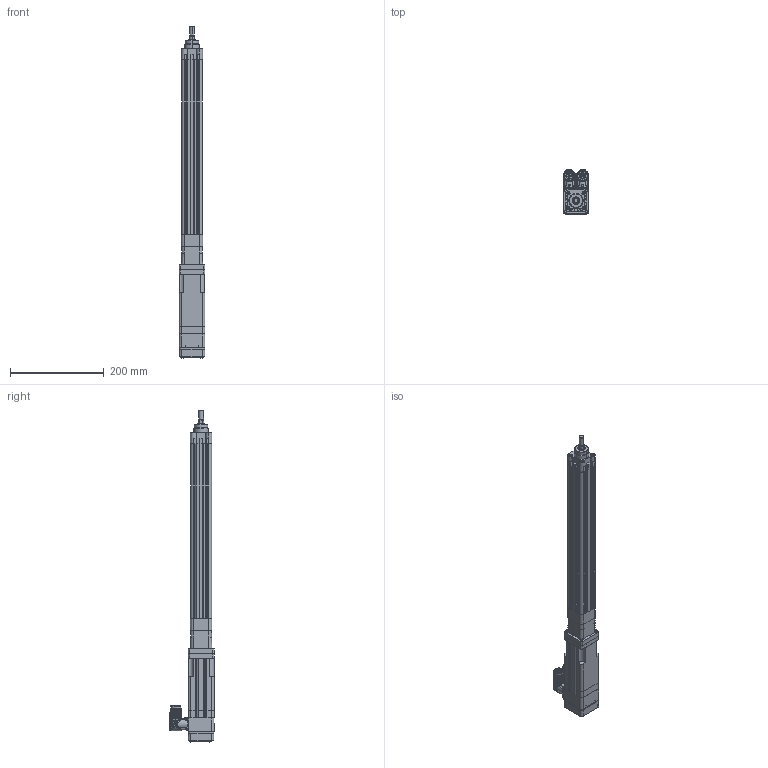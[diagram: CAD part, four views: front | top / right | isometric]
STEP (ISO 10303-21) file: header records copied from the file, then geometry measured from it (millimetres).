
FILE_DESCRIPTION((''),'2;1');
FILE_NAME('MPAR-X1300E-V4A_ASM','2009-04-15T',('dperuma'),('Rockwell Automation'),'PRO/ENGINEER BY PARAMETRIC TECHNOLOGY CORPORATION, 2004490','PRO/ENGINEER BY PARAMETRIC TECHNOLOGY CORPORATION, 2004490','');
FILE_SCHEMA(('CONFIG_CONTROL_DESIGN'));
Length unit declared in the file: millimetre
Products named in the file (46): PRT0003-543121; PRT0004-543121; 627359_627363_ASM; 627462; 627457; 627453; CA33127-020-0_1; EPF-CA30591-0_1; IMPORT-1113_1; IMPORT-1114_1; IMPORT-1115_1; EPF-CA28084-0_ASM_1_ASM; MPG-FASTNER-1116_1; MPG-FASTNER-1117_1; MPG-FASTNER-1118_1; MPG-FASTNER-1119_1; EPF-CA28083-0_ASM_1_ASM; DIN912-2-5-006-0_1; MPG-FASTNER-1122_1; MPG-FASTNER-1123_1; EPF-C08363-0_ASM_1_ASM; EPF-C08459-001-0_1; G4X2L20-0_ASM_1_ASM; B1530-BRK-HSG_1; EPF-B47940-001A_1; IMPORT-1106_1; MANIFOLD_SOLID_BREP_45981; MANIFOLD_SOLID_BREP_46020; MANIFOLD_SOLID_BREP_46059; MANIFOLD_SOLID_BREP_46098; MANIFOLD_SOLID_BREP_46137; MANIFOLD_SOLID_BREP_46176; MANIFOLD_SOLID_BREP_46215; MANIFOLD_SOLID_BREP_46254; IMPORT-1107_1_ASM; IMPORT-1108_1; A73229-002_D_ASM_1_ASM; EPF-CA30891-0_1; DIN912-003-012-_1; 0011-G402_1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
Assembly tree (69 placements, depth 6):
  MPAR-X1300E-V4A_ASM
    627359_627363_ASM
      PRT0003-543121
      PRT0004-543121
    627462
    627457
    627453
    MPL-1530-J44AA_ASM
      MPL-1530-J44AA_ASM_1_ASM
        G4X2L20-0_ASM_1_ASM
          CA33127-020-0_1
          EPF-CA30591-0_1
          EPF-CA28084-0_ASM_1_ASM
            IMPORT-1113_1
            IMPORT-1114_1
            IMPORT-1115_1
          EPF-CA28083-0_ASM_1_ASM
            MPG-FASTNER-1116_1
            MPG-FASTNER-1117_1
            MPG-FASTNER-1118_1
            MPG-FASTNER-1119_1
          DIN912-2-5-006-0_1  x8
          EPF-C08363-0_ASM_1_ASM  x4
            MPG-FASTNER-1122_1
            MPG-FASTNER-1123_1
          EPF-C08459-001-0_1  x8
        B1530-BRK-HSG_1
        EPF-B47940-001A_1
        A73229-002_D_ASM_1_ASM
          IMPORT-1106_1
          IMPORT-1107_1_ASM
            MANIFOLD_SOLID_BREP_45981
            MANIFOLD_SOLID_BREP_46020
            MANIFOLD_SOLID_BREP_46059
            MANIFOLD_SOLID_BREP_46098
            MANIFOLD_SOLID_BREP_46137
            MANIFOLD_SOLID_BREP_46176
            MANIFOLD_SOLID_BREP_46215
            MANIFOLD_SOLID_BREP_46254
          IMPORT-1108_1
        EPF-CA30891-0_1
        DIN912-003-012-_1  x4
        0011-G402_1
        EPF-C08725-001-0_1  x2
        X15XX-BRK_1
        EPF-DIN7985-003-020-0_1  x4
Bounding box: 55.03 x 94 x 706.76 mm (x, y, z)
Volume: 1167901.8 mm3; surface area: 331729.2 mm2
Topology: 63 solids, 68 shells, 3231 faces, 8387 edges, 5312 vertices
Faces by surface type: cylinder 1399, plane 991, cone 505, torus 194, bspline 74, sphere 68
Entity records: 92825 total; most frequent: CARTESIAN_POINT 25849, DIRECTION 14190, ORIENTED_EDGE 13800, EDGE_CURVE 6904, AXIS2_PLACEMENT_3D 5541, VERTEX_POINT 4508, VECTOR 3108, LINE 3108
